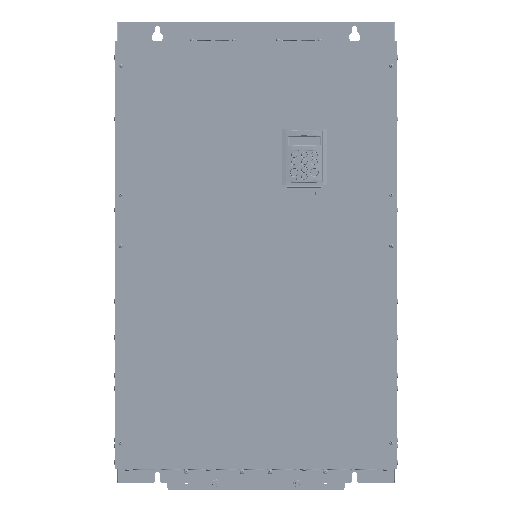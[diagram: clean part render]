
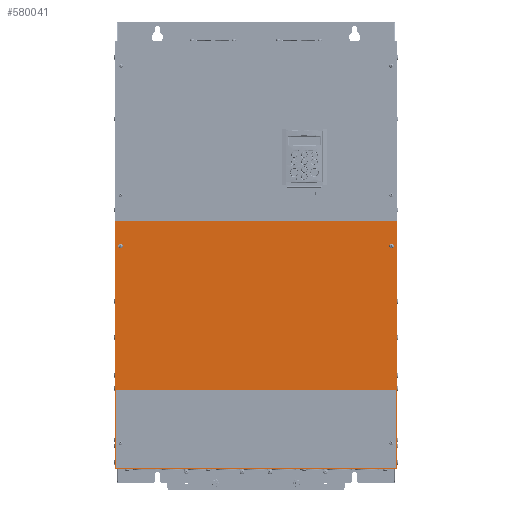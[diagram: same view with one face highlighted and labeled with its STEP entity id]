
A CAD part, top view. The second image highlights one B-rep face of the part: STEP entity #580041.
In plain terms, the highlighted planar face has unit normal (0, 0, 1).
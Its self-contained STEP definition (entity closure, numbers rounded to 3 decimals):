
#4565=FACE_BOUND('',#74227,.T.);
#4566=FACE_BOUND('',#74228,.T.);
#4567=FACE_BOUND('',#74229,.T.);
#24318=CIRCLE('',#607455,0.177);
#24319=CIRCLE('',#607456,0.177);
#24359=CIRCLE('',#607544,0.177);
#24360=CIRCLE('',#607545,0.177);
#43783=FACE_OUTER_BOUND('',#74226,.T.);
#74226=EDGE_LOOP('',(#380527,#380528,#380529,#380530));
#74227=EDGE_LOOP('',(#380531,#380532));
#74228=EDGE_LOOP('',(#380533,#380534));
#74229=EDGE_LOOP('',(#380535,#380536,#380537,#380538));
#105899=LINE('',#864155,#164245);
#105903=LINE('',#864163,#164249);
#105906=LINE('',#864169,#164252);
#105910=LINE('',#864175,#164256);
#111076=LINE('',#897860,#169422);
#111077=LINE('',#897862,#169423);
#111078=LINE('',#897864,#169424);
#111079=LINE('',#897865,#169425);
#164245=VECTOR('',#655114,0.394);
#164249=VECTOR('',#655120,0.394);
#164252=VECTOR('',#655125,0.394);
#164256=VECTOR('',#655131,0.394);
#169422=VECTOR('',#663439,0.039);
#169423=VECTOR('',#663440,0.039);
#169424=VECTOR('',#663441,0.039);
#169425=VECTOR('',#663442,0.039);
#222670=VERTEX_POINT('',#861794);
#222671=VERTEX_POINT('',#861796);
#222746=VERTEX_POINT('',#862438);
#222747=VERTEX_POINT('',#862440);
#222971=VERTEX_POINT('',#864153);
#222972=VERTEX_POINT('',#864154);
#222975=VERTEX_POINT('',#864162);
#222977=VERTEX_POINT('',#864168);
#228305=VERTEX_POINT('',#897858);
#228306=VERTEX_POINT('',#897859);
#228307=VERTEX_POINT('',#897861);
#228308=VERTEX_POINT('',#897863);
#278958=EDGE_CURVE('',#222671,#222670,#24318,.T.);
#278959=EDGE_CURVE('',#222670,#222671,#24319,.T.);
#279072=EDGE_CURVE('',#222747,#222746,#24359,.T.);
#279073=EDGE_CURVE('',#222746,#222747,#24360,.T.);
#279380=EDGE_CURVE('',#222971,#222972,#105899,.T.);
#279384=EDGE_CURVE('',#222975,#222971,#105903,.T.);
#279387=EDGE_CURVE('',#222977,#222975,#105906,.T.);
#279391=EDGE_CURVE('',#222972,#222977,#105910,.T.);
#287381=EDGE_CURVE('',#228305,#228306,#111076,.T.);
#287382=EDGE_CURVE('',#228305,#228307,#111077,.T.);
#287383=EDGE_CURVE('',#228307,#228308,#111078,.T.);
#287384=EDGE_CURVE('',#228308,#228306,#111079,.T.);
#380527=ORIENTED_EDGE('',*,*,#287381,.F.);
#380528=ORIENTED_EDGE('',*,*,#287382,.T.);
#380529=ORIENTED_EDGE('',*,*,#287383,.T.);
#380530=ORIENTED_EDGE('',*,*,#287384,.T.);
#380531=ORIENTED_EDGE('',*,*,#278958,.T.);
#380532=ORIENTED_EDGE('',*,*,#278959,.T.);
#380533=ORIENTED_EDGE('',*,*,#279072,.T.);
#380534=ORIENTED_EDGE('',*,*,#279073,.T.);
#380535=ORIENTED_EDGE('',*,*,#279380,.T.);
#380536=ORIENTED_EDGE('',*,*,#279391,.T.);
#380537=ORIENTED_EDGE('',*,*,#279387,.T.);
#380538=ORIENTED_EDGE('',*,*,#279384,.T.);
#531383=PLANE('',#609315);
#580041=ADVANCED_FACE('',(#43783,#4565,#4566,#4567),#531383,.T.);
#607455=AXIS2_PLACEMENT_3D('',#861797,#654330,#654331);
#607456=AXIS2_PLACEMENT_3D('',#861798,#654332,#654333);
#607544=AXIS2_PLACEMENT_3D('',#862441,#654555,#654556);
#607545=AXIS2_PLACEMENT_3D('',#862442,#654557,#654558);
#609315=AXIS2_PLACEMENT_3D('',#897857,#663437,#663438);
#654330=DIRECTION('center_axis',(0.,0.,-1.));
#654331=DIRECTION('ref_axis',(0.,1.,0.));
#654332=DIRECTION('center_axis',(0.,0.,-1.));
#654333=DIRECTION('ref_axis',(0.,1.,0.));
#654555=DIRECTION('center_axis',(0.,0.,-1.));
#654556=DIRECTION('ref_axis',(0.,1.,0.));
#654557=DIRECTION('center_axis',(0.,0.,-1.));
#654558=DIRECTION('ref_axis',(0.,1.,0.));
#655114=DIRECTION('',(0.,-1.,0.));
#655120=DIRECTION('',(1.,0.,0.));
#655125=DIRECTION('',(0.,1.,0.));
#655131=DIRECTION('',(-1.,0.,0.));
#663437=DIRECTION('center_axis',(0.,0.,1.));
#663438=DIRECTION('ref_axis',(1.,0.,0.));
#663439=DIRECTION('',(1.,0.,0.));
#663440=DIRECTION('',(0.,-1.,0.));
#663441=DIRECTION('',(1.,0.,0.));
#663442=DIRECTION('',(0.,1.,0.));
#861794=CARTESIAN_POINT('',(10.531,0.689,13.445));
#861796=CARTESIAN_POINT('',(10.531,1.043,13.445));
#861797=CARTESIAN_POINT('Origin',(10.531,0.866,13.445));
#861798=CARTESIAN_POINT('Origin',(10.531,0.866,13.445));
#862438=CARTESIAN_POINT('',(-10.531,0.689,13.445));
#862440=CARTESIAN_POINT('',(-10.531,1.043,13.445));
#862441=CARTESIAN_POINT('Origin',(-10.531,0.866,13.445));
#862442=CARTESIAN_POINT('Origin',(-10.531,0.866,13.445));
#864153=CARTESIAN_POINT('',(10.866,-10.354,13.445));
#864154=CARTESIAN_POINT('',(10.866,-16.378,13.445));
#864155=CARTESIAN_POINT('',(10.866,-3.775,13.445));
#864162=CARTESIAN_POINT('',(-10.866,-10.354,13.445));
#864163=CARTESIAN_POINT('',(-5.433,-10.354,13.445));
#864168=CARTESIAN_POINT('',(-10.866,-16.378,13.445));
#864169=CARTESIAN_POINT('',(-10.866,-6.786,13.445));
#864175=CARTESIAN_POINT('',(4.648,-16.378,13.445));
#897857=CARTESIAN_POINT('Origin',(0.,2.805,
13.445));
#897858=CARTESIAN_POINT('',(-10.945,2.835,13.445));
#897859=CARTESIAN_POINT('',(10.945,2.835,13.445));
#897860=CARTESIAN_POINT('',(0.,2.835,13.445));
#897861=CARTESIAN_POINT('',(-10.945,-16.457,13.445));
#897862=CARTESIAN_POINT('',(-10.945,-6.811,13.445));
#897863=CARTESIAN_POINT('',(10.945,-16.457,13.445));
#897864=CARTESIAN_POINT('',(0.,-16.457,13.445));
#897865=CARTESIAN_POINT('',(10.945,-6.811,13.445));
